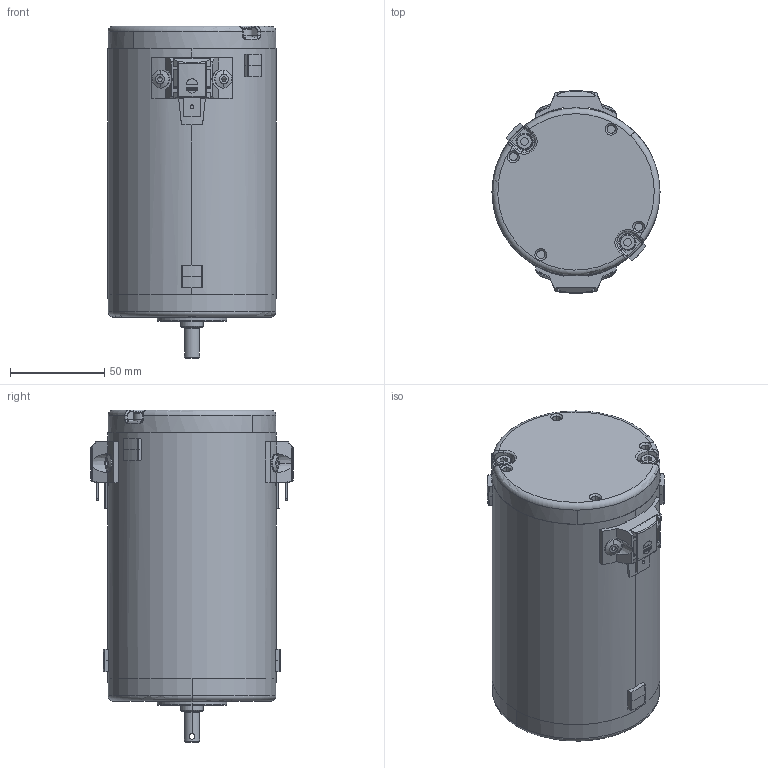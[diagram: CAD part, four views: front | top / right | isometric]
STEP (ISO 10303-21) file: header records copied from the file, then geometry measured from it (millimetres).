
FILE_DESCRIPTION (( 'STEP AP214' ), '1' );
FILE_NAME ('EPM63-50.STEP', '2021-07-07T07:32:25', ( '' ), ( '' ), 'SwSTEP 2.0', 'SolidWorks 2020', '' );
FILE_SCHEMA (( 'AUTOMOTIVE_DESIGN' ));
Length unit declared in the file: millimetre
Products named in the file (1): EPM63-50
Bounding box: 89 x 107.3 x 175.8 mm (x, y, z)
Surface area: 67466.7 mm2 (no closed solid volume)
Topology: 0 solids, 29 shells, 428 faces, 1408 edges, 995 vertices
Faces by surface type: plane 197, cone 90, cylinder 78, bspline 34, torus 29
Entity records: 22035 total; most frequent: CARTESIAN_POINT 5836, ORIENTED_EDGE 2270, DIRECTION 2238, EDGE_CURVE 1408, VERTEX_POINT 995, AXIS2_PLACEMENT_3D 779, LINE 680, VECTOR 680
